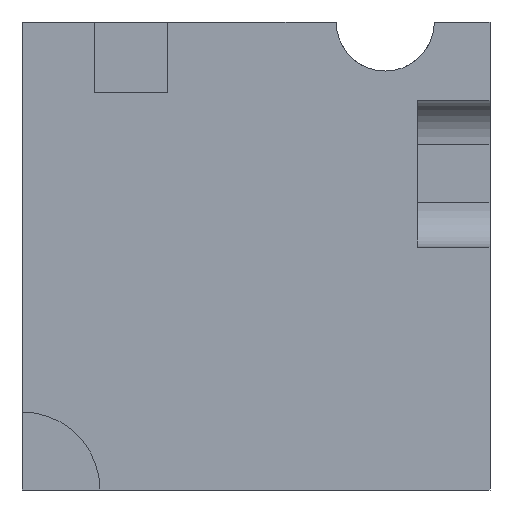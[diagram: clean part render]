
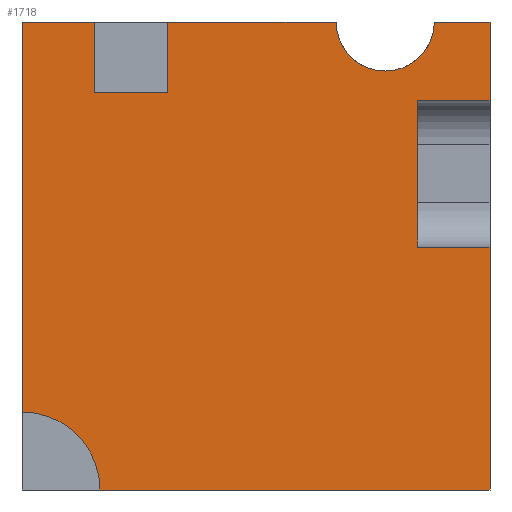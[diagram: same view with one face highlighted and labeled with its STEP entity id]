
A CAD part, front view. The second image highlights one B-rep face of the part: STEP entity #1718.
In plain terms, the highlighted planar face has unit normal (0, -1, 0).
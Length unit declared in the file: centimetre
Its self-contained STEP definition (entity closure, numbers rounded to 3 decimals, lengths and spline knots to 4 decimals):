
#37 = LINE ( 'NONE', #341, #215 ) ;
#44 = EDGE_CURVE ( 'NONE', #201, #1332, #405, .T. ) ;
#58 = EDGE_CURVE ( 'NONE', #111, #343, #711, .T. ) ;
#59 = AXIS2_PLACEMENT_3D ( 'NONE', #782, #212, #1476 ) ;
#70 = EDGE_CURVE ( 'NONE', #343, #540, #954, .T. ) ;
#85 = CARTESIAN_POINT ( 'NONE',  ( 166.813, 0., 0. ) ) ;
#109 = CARTESIAN_POINT ( 'NONE',  ( 155.1129, 0., 848.9318 ) ) ;
#111 = VERTEX_POINT ( 'NONE', #318 ) ;
#121 = ORIENTED_EDGE ( 'NONE', *, *, #1299, .F. ) ;
#124 = CARTESIAN_POINT ( 'NONE',  ( 0., 0., 1000. ) ) ;
#136 = CARTESIAN_POINT ( 'NONE',  ( 1000., 0., 833.1532 ) ) ;
#152 = EDGE_CURVE ( 'NONE', #281, #660, #1036, .T. ) ;
#155 = CARTESIAN_POINT ( 'NONE',  ( 0., 0., 1000. ) ) ;
#157 = DIRECTION ( 'NONE',  ( 0., 0., -1. ) ) ;
#201 = VERTEX_POINT ( 'NONE', #325 ) ;
#207 = ORIENTED_EDGE ( 'NONE', *, *, #1737, .F. ) ;
#208 = PLANE ( 'NONE',  #59 ) ;
#212 = DIRECTION ( 'NONE',  ( 0., 1., 0. ) ) ;
#213 = VECTOR ( 'NONE', #826, 100. ) ;
#215 = VECTOR ( 'NONE', #1576, 100. ) ;
#233 = VERTEX_POINT ( 'NONE', #1746 ) ;
#238 = DIRECTION ( 'NONE',  ( 1., 0., 0. ) ) ;
#263 = LINE ( 'NONE', #274, #1755 ) ;
#274 = CARTESIAN_POINT ( 'NONE',  ( 1000., 0., 1000. ) ) ;
#281 = VERTEX_POINT ( 'NONE', #1053 ) ;
#294 = CARTESIAN_POINT ( 'NONE',  ( 0., 0., 0. ) ) ;
#297 = CARTESIAN_POINT ( 'NONE',  ( 0., 0., 166.813 ) ) ;
#298 = ORIENTED_EDGE ( 'NONE', *, *, #152, .F. ) ;
#306 = DIRECTION ( 'NONE',  ( 0., -1., 0. ) ) ;
#307 = AXIS2_PLACEMENT_3D ( 'NONE', #1543, #306, #613 ) ;
#314 = CIRCLE ( 'NONE', #451, 166.813 ) ;
#318 = CARTESIAN_POINT ( 'NONE',  ( 1000., 0., 519.1369 ) ) ;
#325 = CARTESIAN_POINT ( 'NONE',  ( 311.2157, 0., 848.9318 ) ) ;
#329 = VERTEX_POINT ( 'NONE', #769 ) ;
#341 = CARTESIAN_POINT ( 'NONE',  ( 845.8915, 0., 833.1532 ) ) ;
#343 = VERTEX_POINT ( 'NONE', #498 ) ;
#360 = ORIENTED_EDGE ( 'NONE', *, *, #44, .F. ) ;
#397 = LINE ( 'NONE', #781, #914 ) ;
#405 = LINE ( 'NONE', #1355, #1666 ) ;
#431 = CARTESIAN_POINT ( 'NONE',  ( 776.1416, 0., 895.1185 ) ) ;
#451 = AXIS2_PLACEMENT_3D ( 'NONE', #294, #1266, #1545 ) ;
#460 = VECTOR ( 'NONE', #1196, 100. ) ;
#474 = DIRECTION ( 'NONE',  ( 1., 0., 0. ) ) ;
#498 = CARTESIAN_POINT ( 'NONE',  ( 845.8915, 0., 519.1369 ) ) ;
#527 = CARTESIAN_POINT ( 'NONE',  ( 155.1129, 0., 1000. ) ) ;
#540 = VERTEX_POINT ( 'NONE', #1497 ) ;
#544 = ORIENTED_EDGE ( 'NONE', *, *, #831, .F. ) ;
#545 = LINE ( 'NONE', #1106, #1606 ) ;
#575 = CARTESIAN_POINT ( 'NONE',  ( 845.8915, 0., 519.1369 ) ) ;
#613 = DIRECTION ( 'NONE',  ( 0., 0., -1. ) ) ;
#633 = ORIENTED_EDGE ( 'NONE', *, *, #1450, .F. ) ;
#654 = CARTESIAN_POINT ( 'NONE',  ( 1000., 0., 1000. ) ) ;
#660 = VERTEX_POINT ( 'NONE', #431 ) ;
#671 = ORIENTED_EDGE ( 'NONE', *, *, #1319, .F. ) ;
#686 = DIRECTION ( 'NONE',  ( 1., 0., 0. ) ) ;
#709 = ORIENTED_EDGE ( 'NONE', *, *, #950, .F. ) ;
#711 = LINE ( 'NONE', #575, #1095 ) ;
#721 = CARTESIAN_POINT ( 'NONE',  ( 1000., 0., 1000. ) ) ;
#723 = VERTEX_POINT ( 'NONE', #297 ) ;
#745 = VERTEX_POINT ( 'NONE', #85 ) ;
#767 = VERTEX_POINT ( 'NONE', #654 ) ;
#769 = CARTESIAN_POINT ( 'NONE',  ( 881.0232, 0., 1000. ) ) ;
#781 = CARTESIAN_POINT ( 'NONE',  ( 0., 0., 1000. ) ) ;
#782 = CARTESIAN_POINT ( 'NONE',  ( 0., 0., 1000. ) ) ;
#790 = ORIENTED_EDGE ( 'NONE', *, *, #1562, .T. ) ;
#819 = CARTESIAN_POINT ( 'NONE',  ( 155.1129, 0., 848.9318 ) ) ;
#826 = DIRECTION ( 'NONE',  ( 0., 0., 1. ) ) ;
#831 = EDGE_CURVE ( 'NONE', #233, #201, #1484, .T. ) ;
#846 = EDGE_CURVE ( 'NONE', #329, #767, #397, .T. ) ;
#854 = EDGE_CURVE ( 'NONE', #885, #723, #1330, .T. ) ;
#885 = VERTEX_POINT ( 'NONE', #155 ) ;
#914 = VECTOR ( 'NONE', #686, 100. ) ;
#945 = LINE ( 'NONE', #109, #1552 ) ;
#950 = EDGE_CURVE ( 'NONE', #745, #723, #314, .T. ) ;
#954 = LINE ( 'NONE', #1390, #213 ) ;
#965 = VERTEX_POINT ( 'NONE', #136 ) ;
#993 = CARTESIAN_POINT ( 'NONE',  ( 311.2157, 0., 1000. ) ) ;
#1007 = LINE ( 'NONE', #1716, #1325 ) ;
#1012 = ORIENTED_EDGE ( 'NONE', *, *, #1453, .F. ) ;
#1032 = CARTESIAN_POINT ( 'NONE',  ( 1000., 0., 0. ) ) ;
#1036 = CIRCLE ( 'NONE', #307, 104.8815 ) ;
#1053 = CARTESIAN_POINT ( 'NONE',  ( 671.2601, 0., 1000. ) ) ;
#1071 = ORIENTED_EDGE ( 'NONE', *, *, #1121, .T. ) ;
#1087 = DIRECTION ( 'NONE',  ( 0., 0., -1. ) ) ;
#1095 = VECTOR ( 'NONE', #1632, 100. ) ;
#1100 = DIRECTION ( 'NONE',  ( 0., -1., 0. ) ) ;
#1106 = CARTESIAN_POINT ( 'NONE',  ( 0., 0., 0. ) ) ;
#1121 = EDGE_CURVE ( 'NONE', #745, #1533, #545, .T. ) ;
#1122 = DIRECTION ( 'NONE',  ( 0., 0., 1. ) ) ;
#1167 = CARTESIAN_POINT ( 'NONE',  ( 0., 0., 1000. ) ) ;
#1196 = DIRECTION ( 'NONE',  ( 0., 0., -1. ) ) ;
#1263 = EDGE_CURVE ( 'NONE', #111, #1533, #1757, .T. ) ;
#1266 = DIRECTION ( 'NONE',  ( 0., -1., 0. ) ) ;
#1277 = DIRECTION ( 'NONE',  ( 0., 0., -1. ) ) ;
#1299 = EDGE_CURVE ( 'NONE', #767, #965, #263, .T. ) ;
#1304 = VECTOR ( 'NONE', #238, 100. ) ;
#1319 = EDGE_CURVE ( 'NONE', #660, #329, #1670, .T. ) ;
#1322 = ORIENTED_EDGE ( 'NONE', *, *, #70, .T. ) ;
#1325 = VECTOR ( 'NONE', #474, 100. ) ;
#1327 = FACE_OUTER_BOUND ( 'NONE', #1563, .T. ) ;
#1330 = LINE ( 'NONE', #124, #460 ) ;
#1332 = VERTEX_POINT ( 'NONE', #993 ) ;
#1343 = AXIS2_PLACEMENT_3D ( 'NONE', #1504, #1100, #1642 ) ;
#1355 = CARTESIAN_POINT ( 'NONE',  ( 311.2157, 0., 848.9318 ) ) ;
#1364 = ORIENTED_EDGE ( 'NONE', *, *, #846, .F. ) ;
#1376 = ORIENTED_EDGE ( 'NONE', *, *, #1263, .F. ) ;
#1390 = CARTESIAN_POINT ( 'NONE',  ( 845.8915, 0., 1000. ) ) ;
#1409 = ORIENTED_EDGE ( 'NONE', *, *, #854, .T. ) ;
#1426 = LINE ( 'NONE', #1167, #1599 ) ;
#1450 = EDGE_CURVE ( 'NONE', #1332, #281, #1426, .T. ) ;
#1453 = EDGE_CURVE ( 'NONE', #885, #1788, #1007, .T. ) ;
#1470 = ORIENTED_EDGE ( 'NONE', *, *, #58, .T. ) ;
#1476 = DIRECTION ( 'NONE',  ( 0., 0., 1. ) ) ;
#1484 = LINE ( 'NONE', #819, #1304 ) ;
#1497 = CARTESIAN_POINT ( 'NONE',  ( 845.8915, 0., 833.1532 ) ) ;
#1504 = CARTESIAN_POINT ( 'NONE',  ( 776.1416, 0., 1000. ) ) ;
#1520 = VECTOR ( 'NONE', #1277, 100. ) ;
#1533 = VERTEX_POINT ( 'NONE', #1032 ) ;
#1543 = CARTESIAN_POINT ( 'NONE',  ( 776.1416, 0., 1000. ) ) ;
#1545 = DIRECTION ( 'NONE',  ( 0., 0., -1. ) ) ;
#1552 = VECTOR ( 'NONE', #1087, 100. ) ;
#1562 = EDGE_CURVE ( 'NONE', #540, #965, #37, .T. ) ;
#1563 = EDGE_LOOP ( 'NONE', ( #1376, #1470, #1322, #790, #121, #1364, #671, #298, #633, #360, #544, #207, #1012, #1409, #709, #1071 ) ) ;
#1569 = DIRECTION ( 'NONE',  ( 1., 0., 0. ) ) ;
#1576 = DIRECTION ( 'NONE',  ( 1., 0., 0. ) ) ;
#1599 = VECTOR ( 'NONE', #1569, 100. ) ;
#1606 = VECTOR ( 'NONE', #1647, 100. ) ;
#1632 = DIRECTION ( 'NONE',  ( -1., 0., 0. ) ) ;
#1642 = DIRECTION ( 'NONE',  ( 0., 0., -1. ) ) ;
#1647 = DIRECTION ( 'NONE',  ( 1., 0., 0. ) ) ;
#1666 = VECTOR ( 'NONE', #1122, 100. ) ;
#1670 = CIRCLE ( 'NONE', #1343, 104.8815 ) ;
#1716 = CARTESIAN_POINT ( 'NONE',  ( 0., 0., 1000. ) ) ;
#1718 = ADVANCED_FACE ( 'NONE', ( #1327 ), #208, .F. ) ;
#1737 = EDGE_CURVE ( 'NONE', #1788, #233, #945, .T. ) ;
#1746 = CARTESIAN_POINT ( 'NONE',  ( 155.1129, 0., 848.9318 ) ) ;
#1755 = VECTOR ( 'NONE', #157, 100. ) ;
#1757 = LINE ( 'NONE', #721, #1520 ) ;
#1788 = VERTEX_POINT ( 'NONE', #527 ) ;
